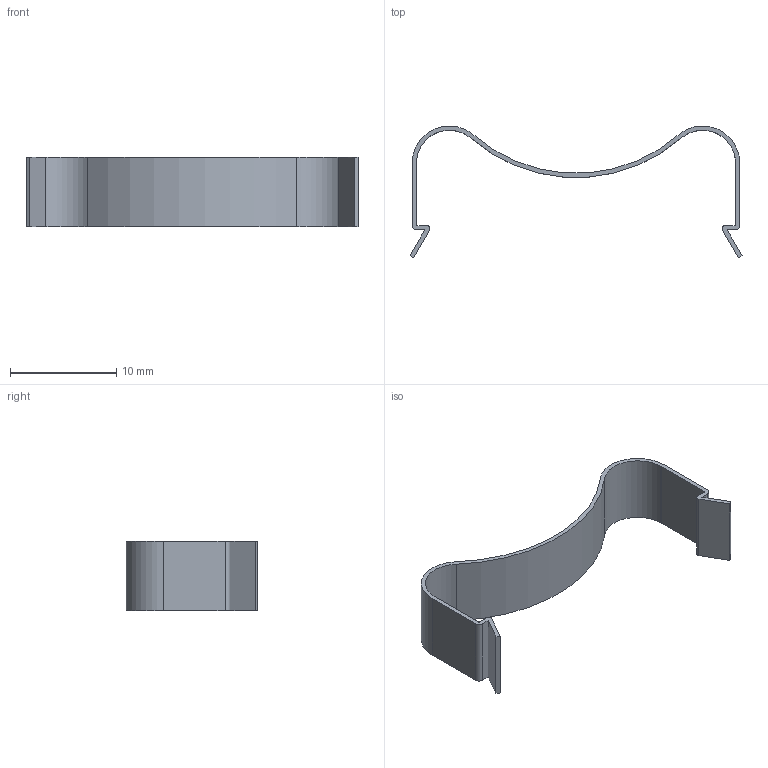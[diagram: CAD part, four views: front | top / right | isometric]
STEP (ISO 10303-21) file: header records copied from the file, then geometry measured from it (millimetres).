
FILE_DESCRIPTION (( 'STEP AP214' ), '1' );
FILE_NAME ('CUI_DEVICES_HSC-06.step', '2021-08-24T18:04:22', ( '' ), ( '' ), 'SwSTEP 2.0', 'SolidWorks 2021', '' );
FILE_SCHEMA (( 'AUTOMOTIVE_DESIGN' ));
Length unit declared in the file: inch
Products named in the file (1): CUI_DEVICES_HSC-06
Bounding box: 31.19 x 12.37 x 6.5 mm (x, y, z)
Volume: 148 mm3; surface area: 789.3 mm2
Topology: 1 solids, 1 shells, 31 faces, 87 edges, 58 vertices
Faces by surface type: plane 16, cylinder 15
Entity records: 1051 total; most frequent: DIRECTION 181, CARTESIAN_POINT 177, ORIENTED_EDGE 174, EDGE_CURVE 87, AXIS2_PLACEMENT_3D 62, VERTEX_POINT 58, LINE 57, VECTOR 57
